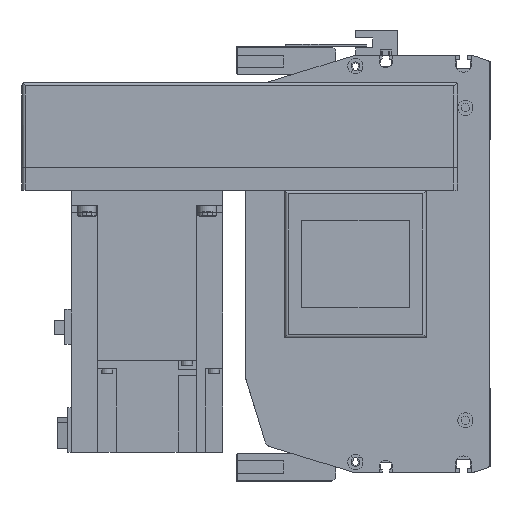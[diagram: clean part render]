
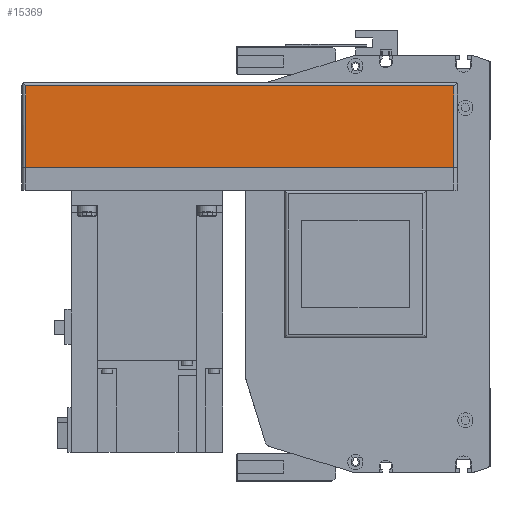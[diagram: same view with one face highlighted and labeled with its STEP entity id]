
A CAD part, left-side view. The second image highlights one B-rep face of the part: STEP entity #15369.
In plain terms, the highlighted planar face has unit normal (-1, 0, 0) as drawn and (0, 1, 0) by its records, which use the part's own axes.
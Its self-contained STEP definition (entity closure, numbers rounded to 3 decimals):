
#2604=ORIENTED_EDGE('',*,*,#6250,.F.);
#2605=ORIENTED_EDGE('',*,*,#6190,.T.);
#2606=ORIENTED_EDGE('',*,*,#6251,.F.);
#2607=ORIENTED_EDGE('',*,*,#6185,.F.);
#6185=EDGE_CURVE('',#8154,#8155,#9744,.T.);
#6190=EDGE_CURVE('',#8160,#8159,#9746,.T.);
#6250=EDGE_CURVE('',#8160,#8154,#9789,.T.);
#6251=EDGE_CURVE('',#8155,#8159,#9790,.T.);
#8154=VERTEX_POINT('',#23946);
#8155=VERTEX_POINT('',#23948);
#8159=VERTEX_POINT('',#23957);
#8160=VERTEX_POINT('',#23959);
#9744=LINE('',#23947,#11101);
#9746=LINE('',#23958,#11103);
#9789=LINE('',#24081,#11146);
#9790=LINE('',#24082,#11147);
#11101=VECTOR('',#19107,1000.);
#11103=VECTOR('',#19117,1000.);
#11146=VECTOR('',#19238,1000.);
#11147=VECTOR('',#19239,1000.);
#12312=EDGE_LOOP('',(#2604,#2605,#2606,#2607));
#13597=FACE_BOUND('',#12312,.T.);
#14720=PLANE('',#16506);
#15369=ADVANCED_FACE('',(#13597),#14720,.T.);
#16506=AXIS2_PLACEMENT_3D('',#24080,#19236,#19237);
#19107=DIRECTION('',(0.,0.,1.));
#19117=DIRECTION('',(0.,0.,1.));
#19236=DIRECTION('',(0.,1.,0.));
#19237=DIRECTION('',(0.,0.,1.));
#19238=DIRECTION('',(1.,0.,0.));
#19239=DIRECTION('',(-1.,0.,0.));
#23946=CARTESIAN_POINT('',(-2.,54.,-55.));
#23947=CARTESIAN_POINT('',(-2.,54.,-57.));
#23948=CARTESIAN_POINT('',(-2.,54.,-12.));
#23957=CARTESIAN_POINT('',(-228.,54.,-12.));
#23958=CARTESIAN_POINT('',(-228.,54.,-57.));
#23959=CARTESIAN_POINT('',(-228.,54.,-55.));
#24080=CARTESIAN_POINT('',(-2.,54.,-57.));
#24081=CARTESIAN_POINT('',(-230.,54.,-55.));
#24082=CARTESIAN_POINT('',(-2.,54.,-12.));
